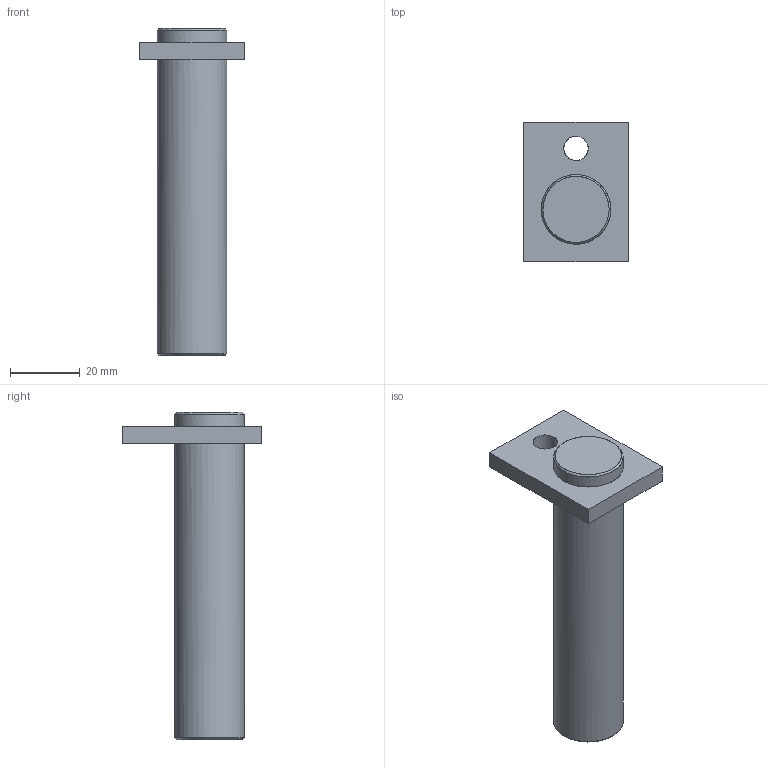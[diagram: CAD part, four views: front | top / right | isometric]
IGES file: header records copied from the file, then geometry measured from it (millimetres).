
Start section: File produced by SOLID-CONCEP (Trim Surfaces - Entity 144)
Global section: file name: 45.igs; native system: SOLID-CONCEPT V.5.xx; preprocessor: SOLID-CONCEPT-IGES-OUT v2.00; date: 100220.122231; units: millimetre
Bounding box: 30 x 40 x 94 mm (x, y, z)
Surface area: 8687.6 mm2 (no closed solid volume)
Topology: 0 solids, 0 shells, 13 faces, 68 edges, 58 vertices
Faces by surface type: bspline 8, revolution 5
